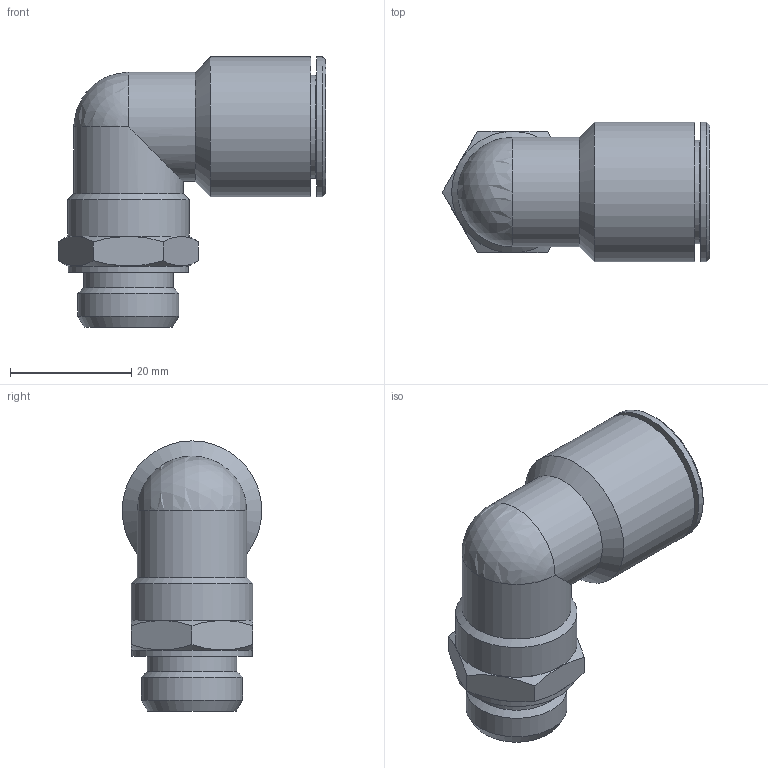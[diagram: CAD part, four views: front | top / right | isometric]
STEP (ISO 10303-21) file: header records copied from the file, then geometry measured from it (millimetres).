
FILE_DESCRIPTION(/* description */ (''),/* implementation_level */ '2;1');
FILE_NAME(/* name */ 'V202268_IPSO022_16_G38_28.06.16',/* time_stamp */ '2016-06-28T09:02:59+02:00',/* author */ (''),/* organization */ (''),/* preprocessor_version */ 'ST-DEVELOPER v16.5',/* originating_system */ 'HiCAD 2016 2101.0 Build 254',/* authorisation */ '');
FILE_SCHEMA (('AUTOMOTIVE_DESIGN { 1 0 10303 214 1 1 1 1 }'));
Length unit declared in the file: millimetre
Products named in the file (4): Root; R202265; 214607; DR16
Assembly tree (3 placements, depth 2):
  Root
    R202265
    214607
    DR16
Bounding box: 44.05 x 23 x 44.5 mm (x, y, z)
Volume: 8990.4 mm3; surface area: 10579.7 mm2
Topology: 3 solids, 3 shells, 64 faces, 137 edges, 84 vertices
Faces by surface type: cylinder 21, plane 21, cone 15, torus 5, sphere 2
Full cylindrical faces by diameter (mm): 11 x1, 12 x1, 13 x1, 14.75 x1, 15.8 x2, 16.2 x2, 16.662 x1, 17 x3, 17.2 x1, 18 x2, 19.8 x1, 20 x1, 20.2 x1, 20.4 x1, 23 x2
Entity records: 2601 total; most frequent: CARTESIAN_POINT 580, DIRECTION 286, PRESENTATION_STYLE_ASSIGNMENT 157, COLOUR_RGB 156, DRAUGHTING_PRE_DEFINED_CURVE_FONT 154, CURVE_STYLE 154, OVER_RIDING_STYLED_ITEM 154, ORIENTED_EDGE 154
